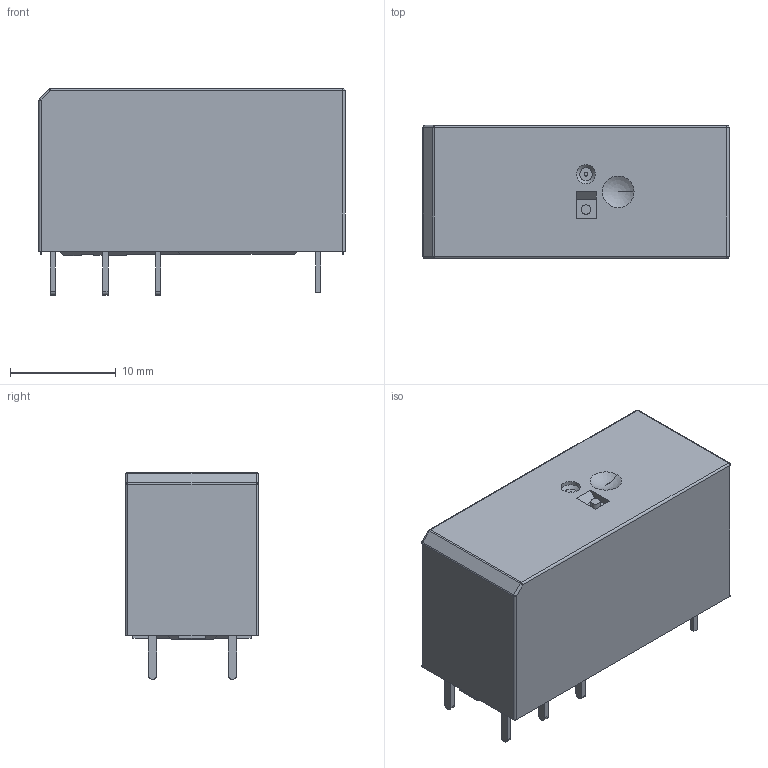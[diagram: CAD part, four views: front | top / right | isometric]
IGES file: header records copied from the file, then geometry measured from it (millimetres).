
Global section: file name: Filename.iges; native system: Open CASCADE 7.3; preprocessor: Open CASCADE IGES processor 7.3; author: VKV; organization: Metaltex; date: 20200625.092254; units: millimetre
Bounding box: 29 x 12.6 x 19.6 mm (x, y, z)
Surface area: 2806.3 mm2 (no closed solid volume)
Topology: 0 solids, 0 shells, 249 faces, 1279 edges, 1253 vertices
Faces by surface type: plane 176, revolution 67, bspline 6
